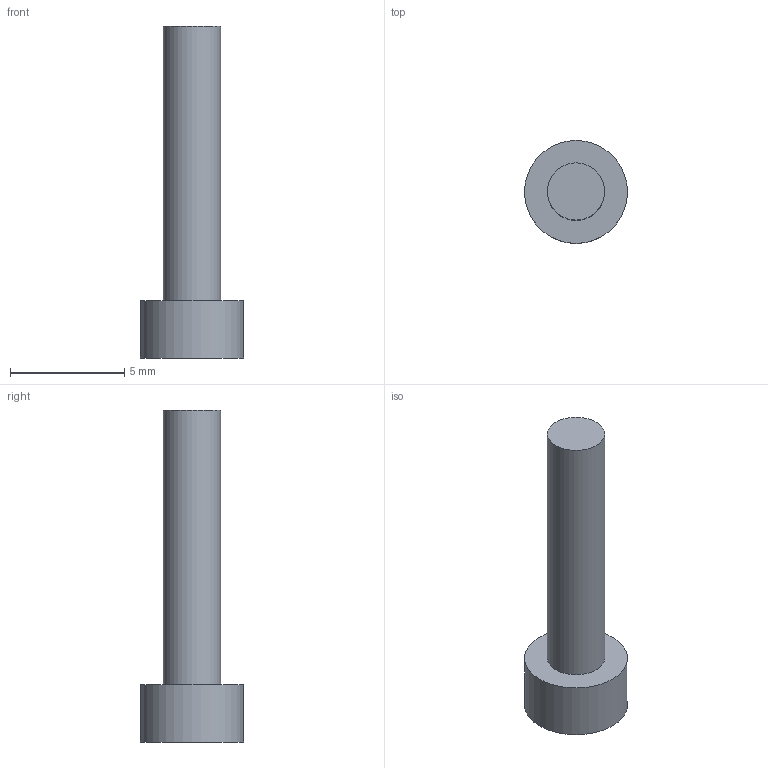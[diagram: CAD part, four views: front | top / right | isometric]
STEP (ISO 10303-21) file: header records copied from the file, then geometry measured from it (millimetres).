
FILE_DESCRIPTION(('Open CASCADE Model'),'2;1');
FILE_NAME('Open CASCADE Shape Model','2026-10-19T15:20:36',('Author'),( 'Open CASCADE'),'Open CASCADE STEP processor 7.9','Open CASCADE 7.9' ,'Unknown');
FILE_SCHEMA(('AUTOMOTIVE_DESIGN { 1 0 10303 214 1 1 1 1 }'));
Length unit declared in the file: millimetre
Products named in the file (1): Open CASCADE STEP translator 7.9 10
Bounding box: 4.5 x 4.5 x 14.5 mm (x, y, z)
Volume: 93.5 mm3; surface area: 171.8 mm2
Topology: 1 solids, 1 shells, 12 faces, 24 edges, 16 vertices
Faces by surface type: plane 10, cylinder 2
Full cylindrical faces by diameter (mm): 2.5 x1, 4.5 x1
Entity records: 622 total; most frequent: CARTESIAN_POINT 113, DIRECTION 90, LINE 52, VECTOR 52, ORIENTED_EDGE 48, PCURVE 48, DEFINITIONAL_REPRESENTATION 48, EDGE_CURVE 24
